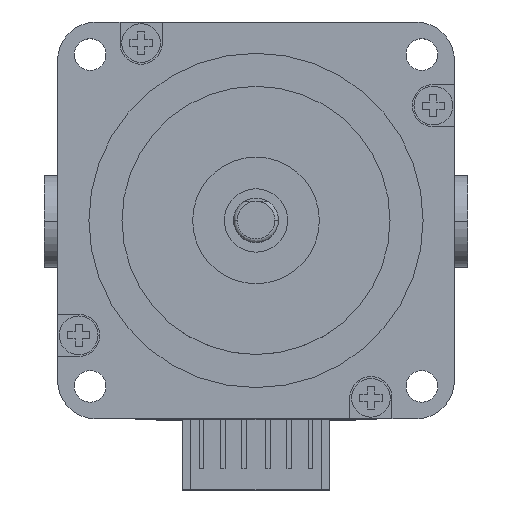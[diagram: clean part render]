
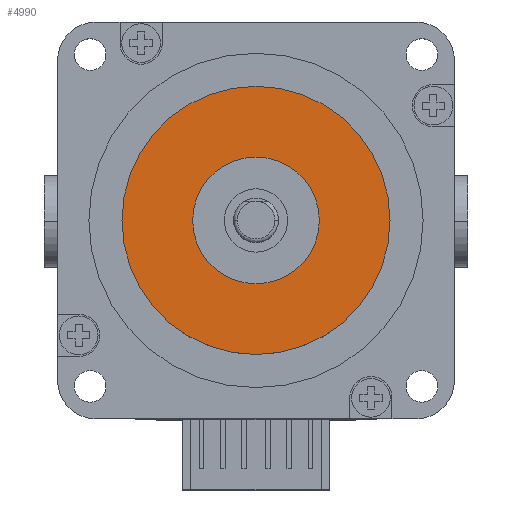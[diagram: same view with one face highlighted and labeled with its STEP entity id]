
A CAD part, top view. The second image highlights one B-rep face of the part: STEP entity #4990.
In plain terms, the highlighted planar face has unit normal (0, 0, 1).
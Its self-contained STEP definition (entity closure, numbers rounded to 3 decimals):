
#124 = DIRECTION ( 'NONE',  ( -1., 0., 0. ) ) ;
#374 = CARTESIAN_POINT ( 'NONE',  ( -9., 0., 1.6 ) ) ;
#419 = VERTEX_POINT ( 'NONE', #3954 ) ;
#449 = ORIENTED_EDGE ( 'NONE', *, *, #763, .T. ) ;
#763 = EDGE_CURVE ( 'NONE', #5749, #419, #4794, .T. ) ;
#1171 = CIRCLE ( 'NONE', #3381, 19.05 ) ;
#2642 = FACE_OUTER_BOUND ( 'NONE', #7393, .T. ) ;
#2721 = EDGE_CURVE ( 'NONE', #419, #5749, #1171, .T. ) ;
#3004 = VERTEX_POINT ( 'NONE', #7879 ) ;
#3102 = AXIS2_PLACEMENT_3D ( 'NONE', #5056, #7251, #8711 ) ;
#3276 = EDGE_LOOP ( 'NONE', ( #3415, #6746 ) ) ;
#3324 = CARTESIAN_POINT ( 'NONE',  ( 19.05, 0., 1.6 ) ) ;
#3381 = AXIS2_PLACEMENT_3D ( 'NONE', #8281, #7502, #8910 ) ;
#3415 = ORIENTED_EDGE ( 'NONE', *, *, #7379, .F. ) ;
#3445 = CIRCLE ( 'NONE', #9240, 9. ) ;
#3821 = DIRECTION ( 'NONE',  ( -1., 0., 0. ) ) ;
#3954 = CARTESIAN_POINT ( 'NONE',  ( -19.05, 0., 1.6 ) ) ;
#4135 = CARTESIAN_POINT ( 'NONE',  ( 0., 0., 1.6 ) ) ;
#4165 = DIRECTION ( 'NONE',  ( 0., 0., 1. ) ) ;
#4226 = DIRECTION ( 'NONE',  ( -1., 0., 0. ) ) ;
#4592 = FACE_BOUND ( 'NONE', #3276, .T. ) ;
#4794 = CIRCLE ( 'NONE', #3102, 19.05 ) ;
#4990 = ADVANCED_FACE ( 'NONE', ( #4592, #2642 ), #7357, .F. ) ;
#5056 = CARTESIAN_POINT ( 'NONE',  ( 0., 0., 1.6 ) ) ;
#5210 = DIRECTION ( 'NONE',  ( 0., 0., -1. ) ) ;
#5225 = EDGE_CURVE ( 'NONE', #3004, #6948, #3445, .T. ) ;
#5749 = VERTEX_POINT ( 'NONE', #3324 ) ;
#5793 = AXIS2_PLACEMENT_3D ( 'NONE', #8223, #7395, #3821 ) ;
#5966 = AXIS2_PLACEMENT_3D ( 'NONE', #8785, #5210, #124 ) ;
#6151 = CIRCLE ( 'NONE', #5793, 9. ) ;
#6746 = ORIENTED_EDGE ( 'NONE', *, *, #5225, .F. ) ;
#6948 = VERTEX_POINT ( 'NONE', #374 ) ;
#7201 = ORIENTED_EDGE ( 'NONE', *, *, #2721, .T. ) ;
#7251 = DIRECTION ( 'NONE',  ( 0., 0., 1. ) ) ;
#7357 = PLANE ( 'NONE',  #5966 ) ;
#7379 = EDGE_CURVE ( 'NONE', #6948, #3004, #6151, .T. ) ;
#7393 = EDGE_LOOP ( 'NONE', ( #449, #7201 ) ) ;
#7395 = DIRECTION ( 'NONE',  ( 0., 0., 1. ) ) ;
#7502 = DIRECTION ( 'NONE',  ( 0., 0., 1. ) ) ;
#7879 = CARTESIAN_POINT ( 'NONE',  ( 9., 0., 1.6 ) ) ;
#8223 = CARTESIAN_POINT ( 'NONE',  ( 0., 0., 1.6 ) ) ;
#8281 = CARTESIAN_POINT ( 'NONE',  ( 0., 0., 1.6 ) ) ;
#8711 = DIRECTION ( 'NONE',  ( 1., 0., 0. ) ) ;
#8785 = CARTESIAN_POINT ( 'NONE',  ( 0., 0., 1.6 ) ) ;
#8910 = DIRECTION ( 'NONE',  ( 1., 0., 0. ) ) ;
#9240 = AXIS2_PLACEMENT_3D ( 'NONE', #4135, #4165, #4226 ) ;
